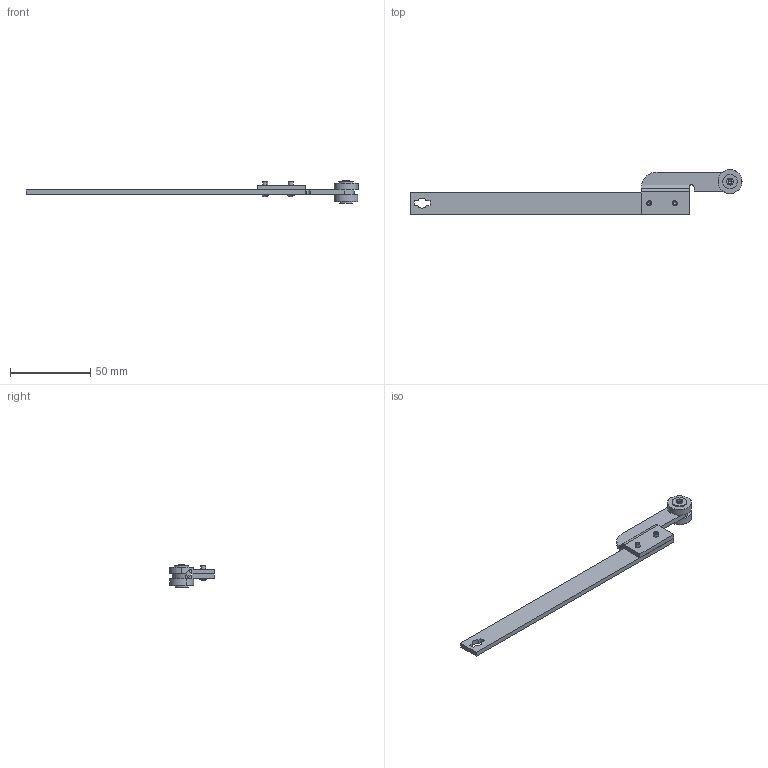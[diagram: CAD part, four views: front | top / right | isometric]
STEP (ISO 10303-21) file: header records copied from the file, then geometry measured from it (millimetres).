
FILE_DESCRIPTION (( 'STEP AP214' ), '1' );
FILE_NAME ('1C.AB17P-L.STEP', '2025-12-04T12:27:54', ( '' ), ( '' ), 'SwSTEP 2.0', 'SolidWorks 2021', '' );
FILE_SCHEMA (( 'AUTOMOTIVE_DESIGN' ));
Length unit declared in the file: millimetre
Products named in the file (8): DIN 6791_fi3x8 - ZN; P.052723_AB-P; 1C.905.001_A; 1C.AB17P-L; A.007462_AB-17; 1C.ROLKA.02.04.00_A-zak; DIN 125_M4; P.052724_AB-17
Assembly tree (9 placements, depth 3):
  1C.AB17P-L
    P.052723_AB-P
    A.007462_AB-17
      P.052724_AB-17
      1C.905.001_A  x2
      1C.ROLKA.02.04.00_A-zak
      DIN 125_M4
    DIN 6791_fi3x8 - ZN  x2
Bounding box: 207.5 x 28 x 14 mm (x, y, z)
Volume: 12257.8 mm3; surface area: 10781.1 mm2
Topology: 8 solids, 8 shells, 105 faces, 234 edges, 145 vertices
Faces by surface type: cylinder 48, plane 41, cone 6, torus 4, sphere 4, bspline 2
Entity records: 2849 total; most frequent: CARTESIAN_POINT 508, DIRECTION 466, ORIENTED_EDGE 388, EDGE_CURVE 194, AXIS2_PLACEMENT_3D 182, VERTEX_POINT 123, EDGE_LOOP 107, VECTOR 102
